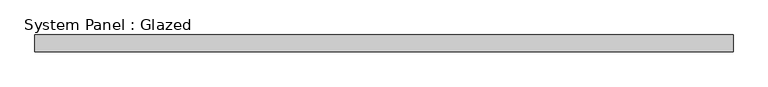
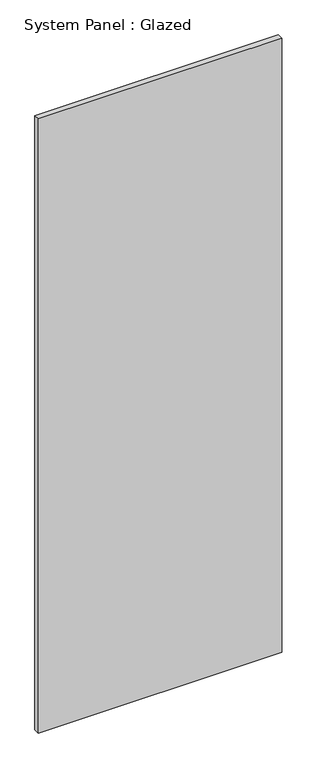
"""IFC4 building model written with IfcOpenShell, lengths in millimetres: plate geometry, System Panel : Glazed."""

from ifc_helpers import new_model, si_unit, origin, origin_with_axes, place, context, project, spatial, polyline, outline, extrude, source, transform, mapped, element, save


def system_panel_glazed_db52f4dd(model_context):
    return source(origin(), model_context, "Body", "SweptSolid", [
        extrude(outline(polyline([(524.9276336, -25.0), (-524.9276336, -25.0), (-524.9276336, 0.0), (524.9276336, 0.0), (524.9276336, -25.0)])), origin_with_axes(), (0.0, 0.0, 1.0), 2800.0),
    ])


if __name__ == "__main__":
    model = new_model("IFC4")
    model_context = context("Model", 3, world=origin())
    ifc_project = project(units=[si_unit("LENGTHUNIT", "METRE", prefix="MILLI")], contexts=[model_context])
    site = spatial("IfcSite", under=ifc_project)
    building = spatial("IfcBuilding", under=site)
    placement = place(None, origin())
    system_panel_glazed_shape = system_panel_glazed_db52f4dd(model_context)
    element("IfcPlate", 1, ObjectType="System Panel : Glazed", at=placement, inside=building, context=model_context, shape_type="MappedRepresentation", body=[
        mapped(system_panel_glazed_shape, transform((0.0, 0.0, 0.0), x_axis=(1.0, 0.0, 0.0), y_axis=(0.0, 1.0, 0.0), z_axis=(0.0, 0.0, 1.0))),
    ])
    save(model, "model.ifc")
